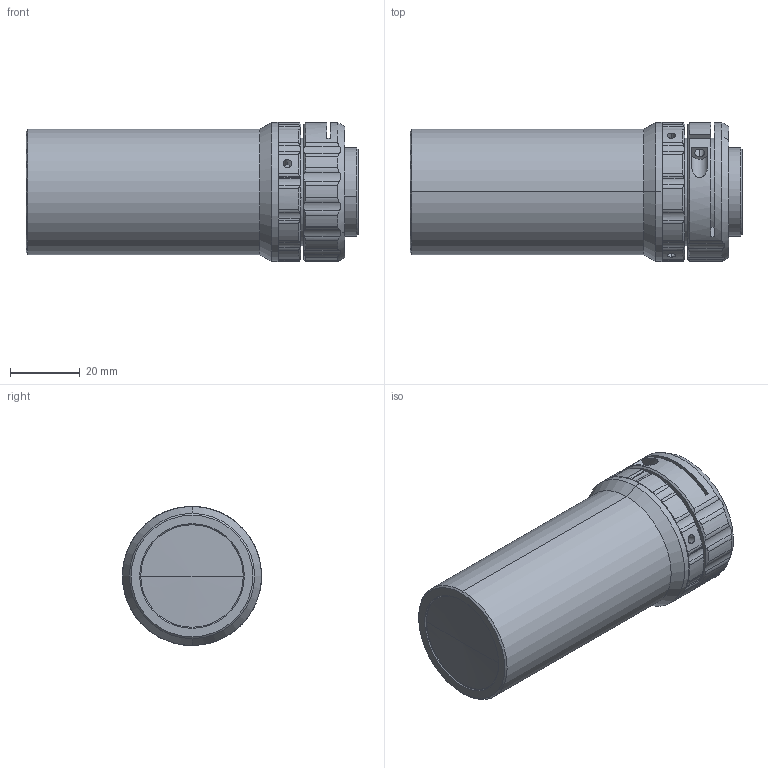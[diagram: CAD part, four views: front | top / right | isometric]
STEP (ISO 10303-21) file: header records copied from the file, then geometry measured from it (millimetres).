
FILE_DESCRIPTION (( 'STEP AP203' ), '1' );
FILE_NAME ('WWT121-085-94.STEP', '2023-08-23T02:18:58', ( '' ), ( '' ), 'SwSTEP 2.0', 'SolidWorks 2017', '' );
FILE_SCHEMA (( 'CONFIG_CONTROL_DESIGN' ));
Length unit declared in the file: millimetre
Products named in the file (1): WWT121-085-94
Bounding box: 95.5 x 40 x 40 mm (x, y, z)
Volume: 98775.1 mm3; surface area: 16413.1 mm2
Topology: 1 solids, 3 shells, 219 faces, 568 edges, 354 vertices
Faces by surface type: cylinder 119, cone 51, plane 45, torus 4
Entity records: 7417 total; most frequent: CARTESIAN_POINT 2010, DIRECTION 1146, ORIENTED_EDGE 1124, EDGE_CURVE 562, AXIS2_PLACEMENT_3D 486, VERTEX_POINT 354, CIRCLE 266, EDGE_LOOP 238
